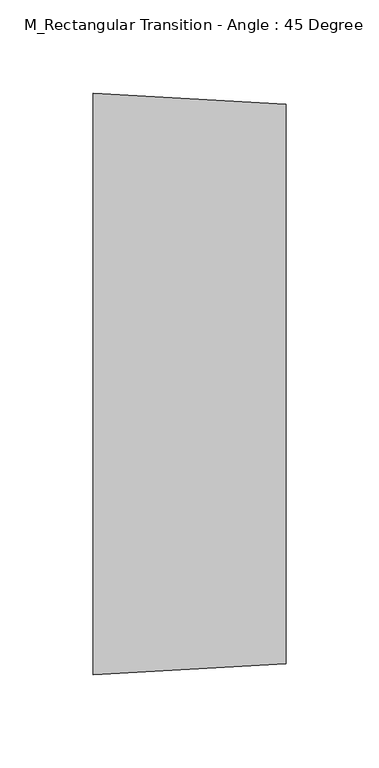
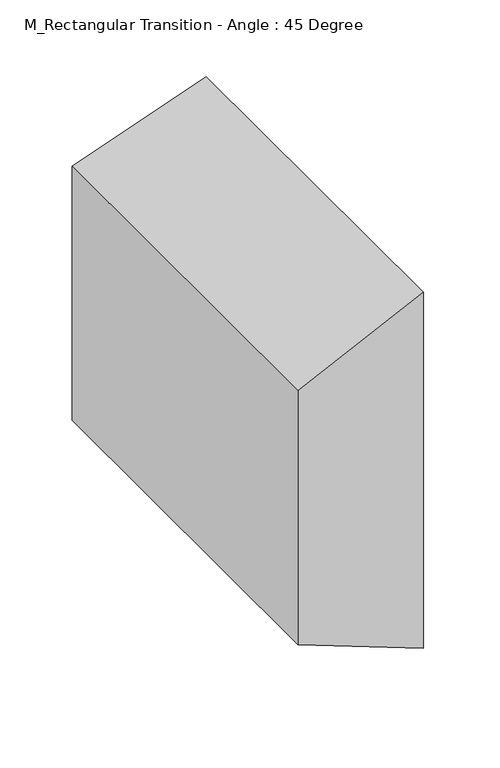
"""IFC4 building model written with IfcOpenShell, lengths in millimetres: duct fitting geometry, M_Rectangular Transition - Angle : 45 Degree."""

from ifc_helpers import new_model, si_unit, origin, place, context, project, spatial, faceted_brep, source, transform, mapped, element, save


def m_rectangular_transition_angle_45_degree_bfac0661(model_context):
    return source(origin(), model_context, "Body", "Brep", [
        faceted_brep([(103.4490511, -150.0, 150.0), (103.4490511, -150.0, -150.0), (103.4490511, 150.0, -150.0), (103.4490511, 150.0, 150.0), (0.0, -155.9375, 107.15), (0.0, 155.9375, 107.15), (0.0, 155.9375, -107.15), (0.0, -155.9375, -107.15)], [[[0, 1, 2, 3]], [[4, 5, 6, 7]], [[4, 7, 1, 0]], [[7, 6, 2, 1]], [[6, 5, 3, 2]], [[5, 4, 0, 3]]]),
    ])


if __name__ == "__main__":
    model = new_model("IFC4")
    model_context = context("Model", 3, world=origin())
    ifc_project = project(units=[si_unit("LENGTHUNIT", "METRE", prefix="MILLI")], contexts=[model_context])
    site = spatial("IfcSite", under=ifc_project)
    building = spatial("IfcBuilding", under=site)
    placement = place(None, origin())
    m_rectangular_transition_angle_45_degree_shape = m_rectangular_transition_angle_45_degree_bfac0661(model_context)
    element("IfcDuctFitting", 1, ObjectType="M_Rectangular Transition - Angle : 45 Degree", at=placement, inside=building, context=model_context, shape_type="MappedRepresentation", body=[
        mapped(m_rectangular_transition_angle_45_degree_shape, transform((0.0, 0.0, 0.0), x_axis=(1.0, 0.0, 0.0), y_axis=(0.0, 1.0, 0.0), z_axis=(0.0, 0.0, 1.0))),
    ])
    save(model, "model.ifc")
